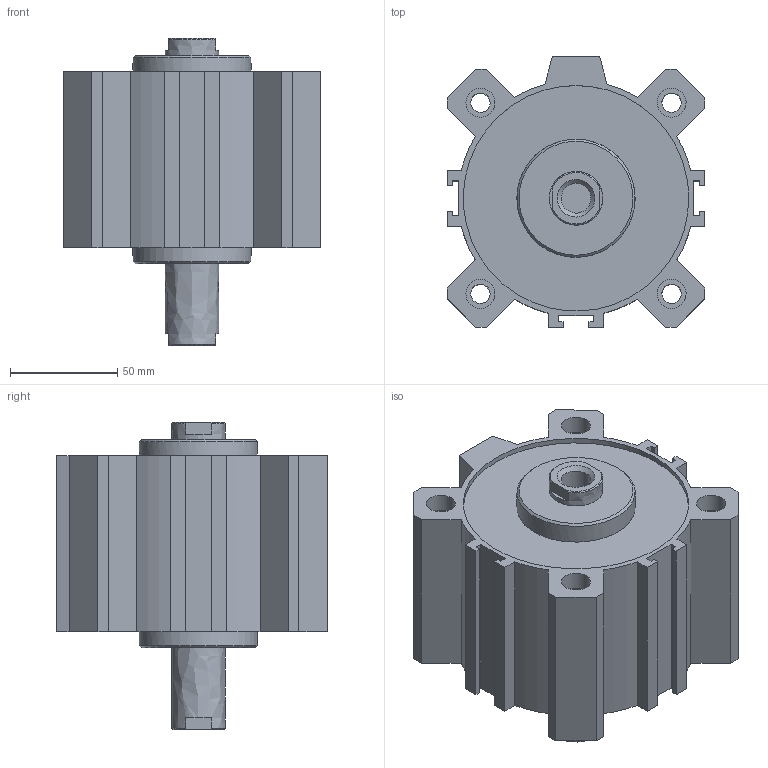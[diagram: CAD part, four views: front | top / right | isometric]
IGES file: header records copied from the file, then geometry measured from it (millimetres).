
Global section: file name: 1514_100_0030; native system: Autodesk Inventor 2014; preprocessor: unknown; author: A. Manieri; date: 20160824.163150; units: millimetre
Bounding box: 120 x 126 x 143 mm (x, y, z)
Volume: 761415.5 mm3; surface area: 155653.5 mm2
Topology: 2 solids, 2 shells, 132 faces, 346 edges, 238 vertices
Faces by surface type: bspline 132
